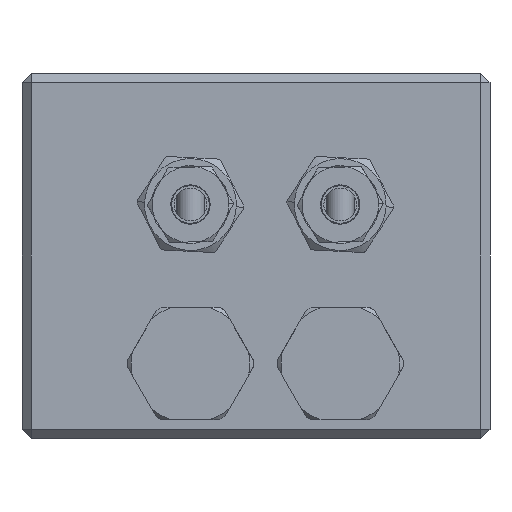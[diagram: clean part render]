
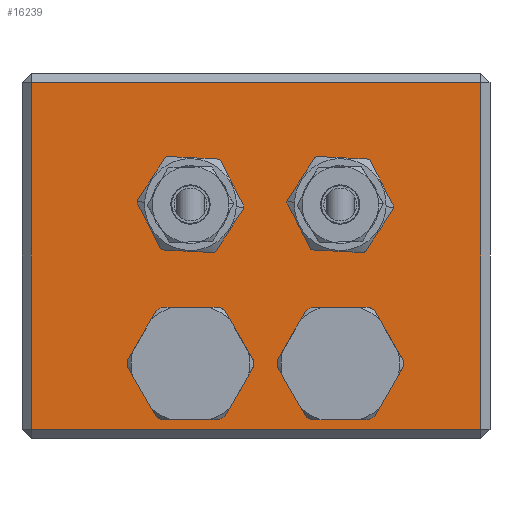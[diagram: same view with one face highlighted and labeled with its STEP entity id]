
A CAD part, front view. The second image highlights one B-rep face of the part: STEP entity #16239.
In plain terms, the highlighted planar face has unit normal (0, -1, 0).
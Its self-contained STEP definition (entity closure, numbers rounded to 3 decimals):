
#551 = CIRCLE ( 'NONE', #1988, 4.8 ) ;
#952 = DIRECTION ( 'NONE',  ( 1., 0., 0. ) ) ;
#1024 = AXIS2_PLACEMENT_3D ( 'NONE', #9264, #5597, #5063 ) ;
#1432 = EDGE_CURVE ( 'NONE', #9466, #10428, #10645, .T. ) ;
#1592 = CIRCLE ( 'NONE', #1024, 4.7 ) ;
#1602 = CARTESIAN_POINT ( 'NONE',  ( 9., -25.5, 20.3 ) ) ;
#1777 = EDGE_LOOP ( 'NONE', ( #3868, #7154, #3403, #8398 ) ) ;
#1988 = AXIS2_PLACEMENT_3D ( 'NONE', #15046, #6044, #12396 ) ;
#2074 = VERTEX_POINT ( 'NONE', #9743 ) ;
#2183 = LINE ( 'NONE', #13422, #6119 ) ;
#2238 = ORIENTED_EDGE ( 'NONE', *, *, #1432, .T. ) ;
#2452 = ORIENTED_EDGE ( 'NONE', *, *, #4254, .T. ) ;
#2457 = VERTEX_POINT ( 'NONE', #9557 ) ;
#2611 = DIRECTION ( 'NONE',  ( 0., 0., 1. ) ) ;
#2834 = CARTESIAN_POINT ( 'NONE',  ( -24., -25.5, 39. ) ) ;
#3049 = EDGE_CURVE ( 'NONE', #6187, #2457, #2183, .T. ) ;
#3393 = CARTESIAN_POINT ( 'NONE',  ( -25., -25.5, 1. ) ) ;
#3403 = ORIENTED_EDGE ( 'NONE', *, *, #12784, .T. ) ;
#3460 = VECTOR ( 'NONE', #9851, 1000. ) ;
#3491 = VERTEX_POINT ( 'NONE', #1602 ) ;
#3522 = DIRECTION ( 'NONE',  ( 0., 1., 0. ) ) ;
#3744 = DIRECTION ( 'NONE',  ( 0., 1., 0. ) ) ;
#3745 = VERTEX_POINT ( 'NONE', #9694 ) ;
#3832 = FACE_OUTER_BOUND ( 'NONE', #1777, .T. ) ;
#3868 = ORIENTED_EDGE ( 'NONE', *, *, #9812, .T. ) ;
#4061 = EDGE_CURVE ( 'NONE', #3491, #2074, #7312, .T. ) ;
#4090 = ORIENTED_EDGE ( 'NONE', *, *, #4061, .T. ) ;
#4254 = EDGE_CURVE ( 'NONE', #10730, #16312, #13606, .T. ) ;
#4613 = EDGE_CURVE ( 'NONE', #2074, #3491, #7932, .T. ) ;
#4814 = ORIENTED_EDGE ( 'NONE', *, *, #5506, .T. ) ;
#4920 = ORIENTED_EDGE ( 'NONE', *, *, #11207, .T. ) ;
#4930 = DIRECTION ( 'NONE',  ( 0., 0., 1. ) ) ;
#4935 = VERTEX_POINT ( 'NONE', #5780 ) ;
#4991 = CARTESIAN_POINT ( 'NONE',  ( 24., -25.5, 38. ) ) ;
#5063 = DIRECTION ( 'NONE',  ( 0., 0., 1. ) ) ;
#5112 = CARTESIAN_POINT ( 'NONE',  ( 9., -25.5, 3.2 ) ) ;
#5231 = CARTESIAN_POINT ( 'NONE',  ( -7., -25.5, 25. ) ) ;
#5421 = PLANE ( 'NONE',  #13259 ) ;
#5467 = AXIS2_PLACEMENT_3D ( 'NONE', #6239, #3744, #11416 ) ;
#5499 = CARTESIAN_POINT ( 'NONE',  ( -7., -25.5, 29.7 ) ) ;
#5506 = EDGE_CURVE ( 'NONE', #3745, #8031, #13170, .T. ) ;
#5597 = DIRECTION ( 'NONE',  ( 0., 1., 0. ) ) ;
#5780 = CARTESIAN_POINT ( 'NONE',  ( 24., -25.5, 1. ) ) ;
#5796 = ORIENTED_EDGE ( 'NONE', *, *, #4613, .T. ) ;
#5835 = EDGE_LOOP ( 'NONE', ( #4090, #5796 ) ) ;
#5902 = CARTESIAN_POINT ( 'NONE',  ( 9., -25.5, 25. ) ) ;
#5908 = FACE_BOUND ( 'NONE', #11602, .T. ) ;
#6044 = DIRECTION ( 'NONE',  ( 0., 1., 0. ) ) ;
#6119 = VECTOR ( 'NONE', #14764, 1000. ) ;
#6185 = CARTESIAN_POINT ( 'NONE',  ( -7., -25.5, 20.3 ) ) ;
#6187 = VERTEX_POINT ( 'NONE', #4991 ) ;
#6239 = CARTESIAN_POINT ( 'NONE',  ( -7., -25.5, 8. ) ) ;
#7105 = CARTESIAN_POINT ( 'NONE',  ( 24., -25.5, 39. ) ) ;
#7154 = ORIENTED_EDGE ( 'NONE', *, *, #13310, .T. ) ;
#7189 = CARTESIAN_POINT ( 'NONE',  ( -7., -25.5, 3.2 ) ) ;
#7312 = CIRCLE ( 'NONE', #14472, 4.7 ) ;
#7362 = DIRECTION ( 'NONE',  ( 0., 1., 0. ) ) ;
#7570 = DIRECTION ( 'NONE',  ( 0., 1., 0. ) ) ;
#7640 = DIRECTION ( 'NONE',  ( 0., 0., 1. ) ) ;
#7932 = CIRCLE ( 'NONE', #13197, 4.7 ) ;
#7976 = DIRECTION ( 'NONE',  ( 0., 0., -1. ) ) ;
#8031 = VERTEX_POINT ( 'NONE', #5112 ) ;
#8057 = DIRECTION ( 'NONE',  ( 0., 1., 0. ) ) ;
#8075 = AXIS2_PLACEMENT_3D ( 'NONE', #15123, #7362, #16537 ) ;
#8312 = ORIENTED_EDGE ( 'NONE', *, *, #15775, .T. ) ;
#8391 = VECTOR ( 'NONE', #952, 1000. ) ;
#8398 = ORIENTED_EDGE ( 'NONE', *, *, #3049, .T. ) ;
#8885 = VERTEX_POINT ( 'NONE', #11658 ) ;
#9264 = CARTESIAN_POINT ( 'NONE',  ( -7., -25.5, 25. ) ) ;
#9466 = VERTEX_POINT ( 'NONE', #6185 ) ;
#9509 = CARTESIAN_POINT ( 'NONE',  ( -7., -25.5, 12.8 ) ) ;
#9557 = CARTESIAN_POINT ( 'NONE',  ( -24., -25.5, 38. ) ) ;
#9694 = CARTESIAN_POINT ( 'NONE',  ( 9., -25.5, 12.8 ) ) ;
#9743 = CARTESIAN_POINT ( 'NONE',  ( 9., -25.5, 29.7 ) ) ;
#9812 = EDGE_CURVE ( 'NONE', #2457, #8885, #15160, .T. ) ;
#9851 = DIRECTION ( 'NONE',  ( 0., 0., 1. ) ) ;
#9954 = DIRECTION ( 'NONE',  ( 0., 1., 0. ) ) ;
#10032 = LINE ( 'NONE', #3393, #8391 ) ;
#10365 = CARTESIAN_POINT ( 'NONE',  ( 9., -25.5, 25. ) ) ;
#10372 = CARTESIAN_POINT ( 'NONE',  ( -7., -25.5, 8. ) ) ;
#10428 = VERTEX_POINT ( 'NONE', #5499 ) ;
#10645 = CIRCLE ( 'NONE', #13292, 4.7 ) ;
#10647 = EDGE_LOOP ( 'NONE', ( #2452, #4920 ) ) ;
#10661 = DIRECTION ( 'NONE',  ( 0., 0., 1. ) ) ;
#10730 = VERTEX_POINT ( 'NONE', #7189 ) ;
#11207 = EDGE_CURVE ( 'NONE', #16312, #10730, #11704, .T. ) ;
#11416 = DIRECTION ( 'NONE',  ( 0., 0., 1. ) ) ;
#11602 = EDGE_LOOP ( 'NONE', ( #2238, #8312 ) ) ;
#11658 = CARTESIAN_POINT ( 'NONE',  ( -24., -25.5, 1. ) ) ;
#11704 = CIRCLE ( 'NONE', #15961, 4.8 ) ;
#12396 = DIRECTION ( 'NONE',  ( 0., 0., 1. ) ) ;
#12452 = ORIENTED_EDGE ( 'NONE', *, *, #15647, .T. ) ;
#12784 = EDGE_CURVE ( 'NONE', #4935, #6187, #15902, .T. ) ;
#13170 = CIRCLE ( 'NONE', #8075, 4.8 ) ;
#13197 = AXIS2_PLACEMENT_3D ( 'NONE', #10365, #3522, #4930 ) ;
#13259 = AXIS2_PLACEMENT_3D ( 'NONE', #14486, #8057, #10661 ) ;
#13292 = AXIS2_PLACEMENT_3D ( 'NONE', #5231, #15820, #2611 ) ;
#13310 = EDGE_CURVE ( 'NONE', #8885, #4935, #10032, .T. ) ;
#13422 = CARTESIAN_POINT ( 'NONE',  ( -25., -25.5, 38. ) ) ;
#13606 = CIRCLE ( 'NONE', #5467, 4.8 ) ;
#13816 = FACE_BOUND ( 'NONE', #5835, .T. ) ;
#14472 = AXIS2_PLACEMENT_3D ( 'NONE', #5902, #9954, #14964 ) ;
#14486 = CARTESIAN_POINT ( 'NONE',  ( -25., -25.5, 39. ) ) ;
#14764 = DIRECTION ( 'NONE',  ( -1., 0., 0. ) ) ;
#14964 = DIRECTION ( 'NONE',  ( 0., 0., 1. ) ) ;
#15046 = CARTESIAN_POINT ( 'NONE',  ( 9., -25.5, 8. ) ) ;
#15123 = CARTESIAN_POINT ( 'NONE',  ( 9., -25.5, 8. ) ) ;
#15160 = LINE ( 'NONE', #2834, #15959 ) ;
#15638 = FACE_BOUND ( 'NONE', #16424, .T. ) ;
#15647 = EDGE_CURVE ( 'NONE', #8031, #3745, #551, .T. ) ;
#15775 = EDGE_CURVE ( 'NONE', #10428, #9466, #1592, .T. ) ;
#15820 = DIRECTION ( 'NONE',  ( 0., 1., 0. ) ) ;
#15847 = FACE_BOUND ( 'NONE', #10647, .T. ) ;
#15902 = LINE ( 'NONE', #7105, #3460 ) ;
#15959 = VECTOR ( 'NONE', #7976, 1000. ) ;
#15961 = AXIS2_PLACEMENT_3D ( 'NONE', #10372, #7570, #7640 ) ;
#16239 = ADVANCED_FACE ( 'NONE', ( #15847, #5908, #15638, #13816, #3832 ), #5421, .F. ) ;
#16312 = VERTEX_POINT ( 'NONE', #9509 ) ;
#16424 = EDGE_LOOP ( 'NONE', ( #12452, #4814 ) ) ;
#16537 = DIRECTION ( 'NONE',  ( 0., 0., 1. ) ) ;
